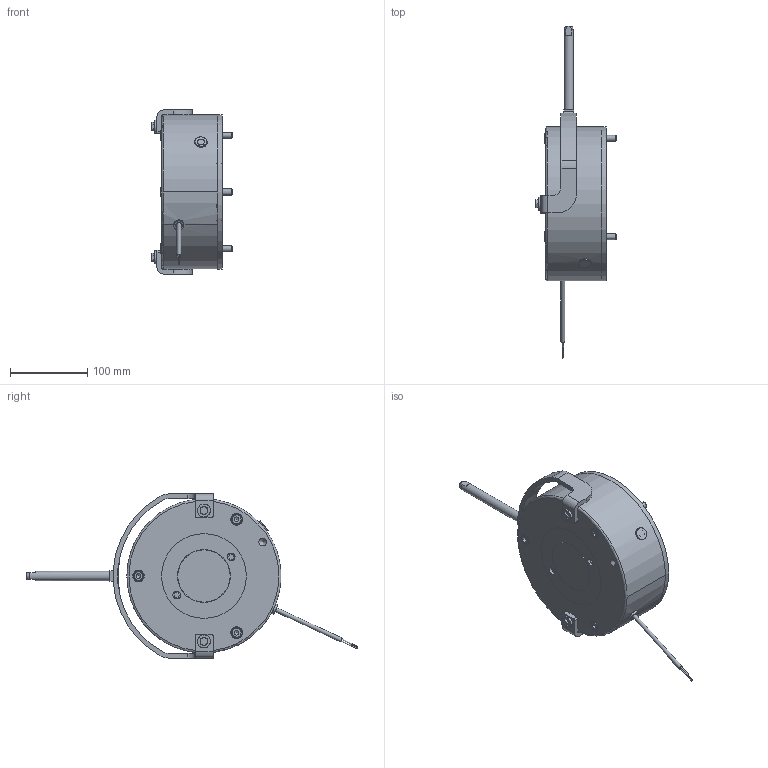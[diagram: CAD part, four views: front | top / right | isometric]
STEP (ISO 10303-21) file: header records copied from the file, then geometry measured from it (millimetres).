
FILE_DESCRIPTION(/* description */ (''),/* implementation_level */ '2;1');
FILE_NAME(/* name */ 'C:\SapWorkDir\Inventor\IP1\ConvertTempPath\5024369_IPT_000.ipt.stp',/* time_stamp */ '2020-09-18T13:22:06+02:00',/* author */ ('STRATE'),/* organization */ (''),/* preprocessor_version */ 'ST-DEVELOPER v17',/* originating_system */ 'Autodesk Inventor 2018',/* authorisation */ '');
FILE_SCHEMA (('AUTOMOTIVE_DESIGN { 1 0 10303 214 3 1 1 }'));
Length unit declared in the file: millimetre
Products named in the file (1): 5024369
Bounding box: 105 x 430.97 x 213 mm (x, y, z)
Volume: 1855564.1 mm3; surface area: 301950.4 mm2
Topology: 4 solids, 4 shells, 591 faces, 1607 edges, 1083 vertices
Faces by surface type: cylinder 301, plane 162, cone 101, torus 27
Full cylindrical faces by diameter (mm): 0.01 x1, 1 x2, 1.85 x2, 5 x1, 5.3 x1, 6 x2, 6.4 x2, 7 x1, 7.2 x2, 7.3 x2, 8 x4, 8.2 x3, 8.5 x1, 8.6 x3, 8.9 x2, 9 x3, 9.8 x2, 10 x1, 10.106 x2, 12 x1, 13 x3, 13.2 x1, 13.9 x3, 15 x3, 16 x1, 17 x2, 63.998 x1, 66 x1, 68 x2, 70 x1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
Entity records: 20627 total; most frequent: CARTESIAN_POINT 4650, DIRECTION 3293, ORIENTED_EDGE 3214, EDGE_CURVE 1607, AXIS2_PLACEMENT_3D 1375, VERTEX_POINT 1083, CIRCLE 783, EDGE_LOOP 676
